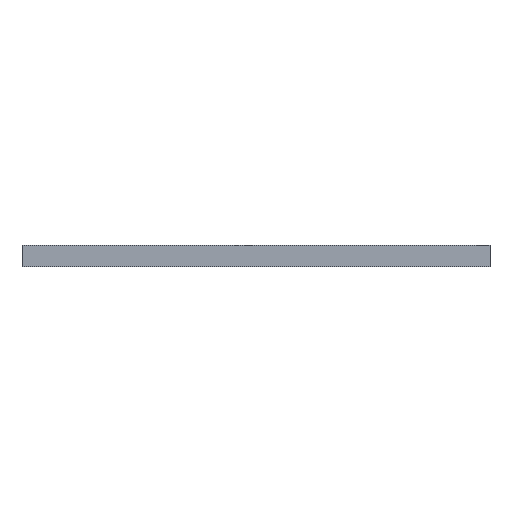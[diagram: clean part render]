
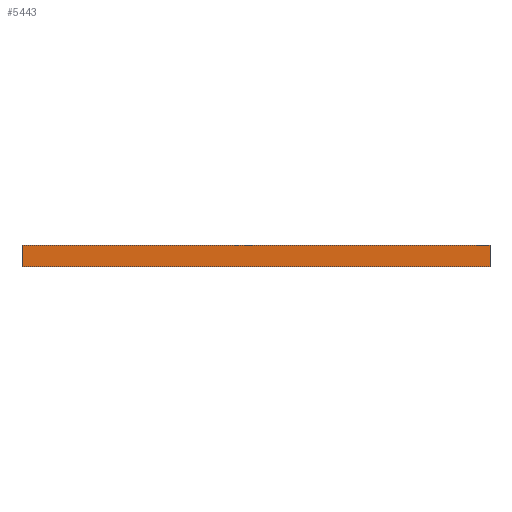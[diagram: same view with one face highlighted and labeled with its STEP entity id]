
A CAD part, front view. The second image highlights one B-rep face of the part: STEP entity #5443.
In plain terms, the highlighted planar face has unit normal (0, -1, 0).
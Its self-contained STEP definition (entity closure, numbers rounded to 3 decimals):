
#563=LINE('',#11571,#1008);
#627=LINE('',#11836,#1072);
#628=LINE('',#11839,#1073);
#629=LINE('',#11840,#1074);
#1008=VECTOR('',#6282,10.);
#1072=VECTOR('',#6582,10.);
#1073=VECTOR('',#6585,10.);
#1074=VECTOR('',#6586,10.);
#1503=FACE_OUTER_BOUND('',#1848,.T.);
#1848=EDGE_LOOP('',(#4939,#4940,#4941,#4942));
#2578=VERTEX_POINT('',#11568);
#2579=VERTEX_POINT('',#11570);
#2661=VERTEX_POINT('',#11832);
#2663=VERTEX_POINT('',#11838);
#3308=EDGE_CURVE('',#2578,#2579,#563,.T.);
#3438=EDGE_CURVE('',#2661,#2579,#627,.T.);
#3439=EDGE_CURVE('',#2663,#2661,#628,.T.);
#3440=EDGE_CURVE('',#2663,#2578,#629,.T.);
#4939=ORIENTED_EDGE('',*,*,#3439,.T.);
#4940=ORIENTED_EDGE('',*,*,#3438,.T.);
#4941=ORIENTED_EDGE('',*,*,#3308,.F.);
#4942=ORIENTED_EDGE('',*,*,#3440,.F.);
#5129=PLANE('',#5696);
#5443=ADVANCED_FACE('',(#1503),#5129,.T.);
#5696=AXIS2_PLACEMENT_3D('',#11837,#6583,#6584);
#6282=DIRECTION('',(1.,0.,0.));
#6582=DIRECTION('',(0.,0.,1.));
#6583=DIRECTION('center_axis',(0.,-1.,0.));
#6584=DIRECTION('ref_axis',(1.,0.,0.));
#6585=DIRECTION('',(1.,0.,0.));
#6586=DIRECTION('',(0.,0.,1.));
#11568=CARTESIAN_POINT('',(-65.,-62.5,6.));
#11570=CARTESIAN_POINT('',(65.,-62.5,6.));
#11571=CARTESIAN_POINT('',(-70.,-62.5,6.));
#11832=CARTESIAN_POINT('',(65.,-62.5,0.));
#11836=CARTESIAN_POINT('',(65.,-62.5,0.));
#11837=CARTESIAN_POINT('Origin',(-65.,-62.5,0.));
#11838=CARTESIAN_POINT('',(-65.,-62.5,0.));
#11839=CARTESIAN_POINT('',(-70.,-62.5,0.));
#11840=CARTESIAN_POINT('',(-65.,-62.5,0.));
